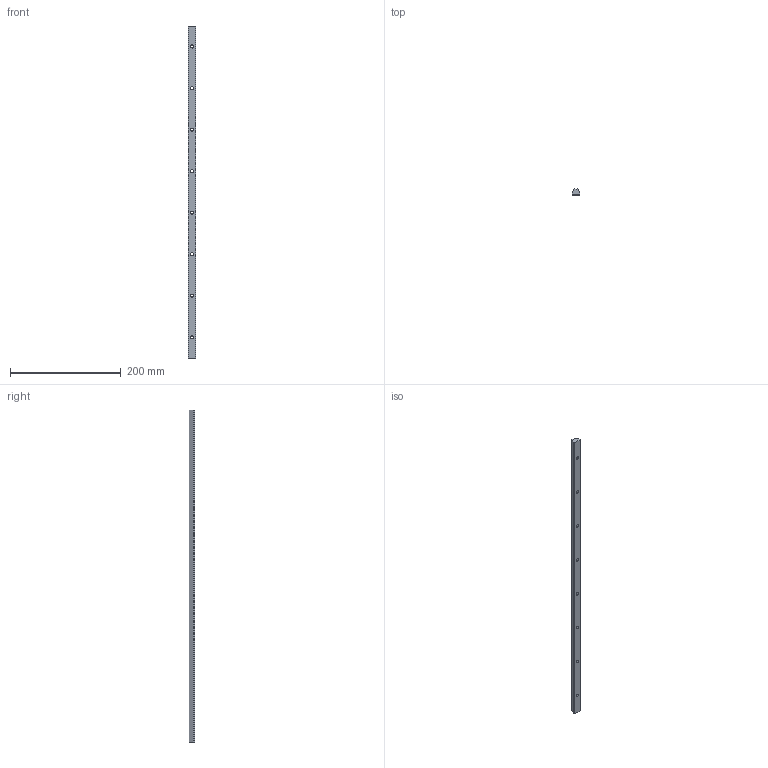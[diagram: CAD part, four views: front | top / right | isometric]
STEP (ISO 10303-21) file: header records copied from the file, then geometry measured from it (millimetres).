
FILE_DESCRIPTION (( 'STEP AP203' ), '1' );
FILE_NAME ('KWU16-16.step', '2020-03-23T07:56:38', ( '' ), ( '' ), 'SwSTEP 2.0', 'SolidWorks 2019', '' );
FILE_SCHEMA (( 'CONFIG_CONTROL_DESIGN' ));
Length unit declared in the file: millimetre
Products named in the file (2): KWU16-16
Bounding box: 14 x 10.72 x 599.5 mm (x, y, z)
Volume: 69972.3 mm3; surface area: 27826.5 mm2
Topology: 1 solids, 1 shells, 25 faces, 77 edges, 46 vertices
Faces by surface type: cylinder 16, plane 9
Entity records: 1026 total; most frequent: CARTESIAN_POINT 198, ORIENTED_EDGE 154, DIRECTION 131, EDGE_CURVE 77, VERTEX_POINT 46, VECTOR 45, LINE 45, AXIS2_PLACEMENT_3D 43
